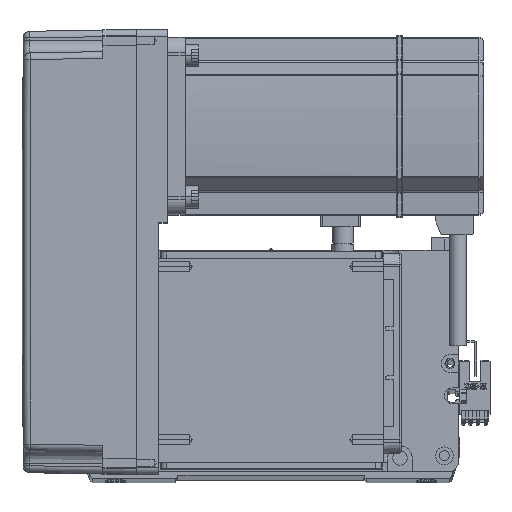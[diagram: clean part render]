
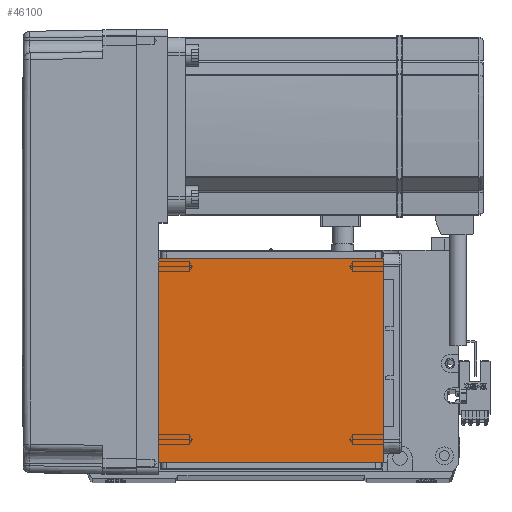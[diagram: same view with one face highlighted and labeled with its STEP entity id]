
A CAD part, top view. The second image highlights one B-rep face of the part: STEP entity #46100.
In plain terms, the highlighted planar face has unit normal (0, 0, 1).
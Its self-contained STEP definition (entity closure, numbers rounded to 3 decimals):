
#653 = EDGE_CURVE ( 'NONE', #18079, #14339, #40876, .T. ) ;
#2469 = EDGE_CURVE ( 'NONE', #18079, #31476, #30775, .T. ) ;
#4140 = EDGE_CURVE ( 'NONE', #41751, #14339, #19170, .T. ) ;
#4277 = VECTOR ( 'NONE', #45794, 1000. ) ;
#8455 = DIRECTION ( 'NONE',  ( -1., 0., 0. ) ) ;
#8769 = VECTOR ( 'NONE', #30800, 1000. ) ;
#12964 = CARTESIAN_POINT ( 'NONE',  ( 50.5, 122., 115. ) ) ;
#13898 = CARTESIAN_POINT ( 'NONE',  ( -50.5, 122., 115. ) ) ;
#14339 = VERTEX_POINT ( 'NONE', #42438 ) ;
#15598 = CARTESIAN_POINT ( 'NONE',  ( 50.5, 111.5, 115. ) ) ;
#18079 = VERTEX_POINT ( 'NONE', #20987 ) ;
#18096 = EDGE_LOOP ( 'NONE', ( #32874, #55091, #27475, #24790 ) ) ;
#19170 = LINE ( 'NONE', #13898, #4277 ) ;
#19726 = LINE ( 'NONE', #57527, #22540 ) ;
#20987 = CARTESIAN_POINT ( 'NONE',  ( 50.5, 20., 115. ) ) ;
#22087 = CARTESIAN_POINT ( 'NONE',  ( -70.004, 20., 115. ) ) ;
#22540 = VECTOR ( 'NONE', #31493, 1000. ) ;
#24790 = ORIENTED_EDGE ( 'NONE', *, *, #2469, .T. ) ;
#27475 = ORIENTED_EDGE ( 'NONE', *, *, #653, .F. ) ;
#30775 = LINE ( 'NONE', #12964, #8769 ) ;
#30800 = DIRECTION ( 'NONE',  ( 0., 1., 0. ) ) ;
#31476 = VERTEX_POINT ( 'NONE', #15598 ) ;
#31493 = DIRECTION ( 'NONE',  ( 1., 0., 0. ) ) ;
#32874 = ORIENTED_EDGE ( 'NONE', *, *, #54183, .F. ) ;
#34327 = CARTESIAN_POINT ( 'NONE',  ( -50.5, 111.5, 115. ) ) ;
#34600 = FACE_OUTER_BOUND ( 'NONE', #18096, .T. ) ;
#35671 = DIRECTION ( 'NONE',  ( 1., 0., 0. ) ) ;
#38757 = VECTOR ( 'NONE', #8455, 1000. ) ;
#39859 = CARTESIAN_POINT ( 'NONE',  ( 0., 0., 115. ) ) ;
#40876 = LINE ( 'NONE', #22087, #38757 ) ;
#41751 = VERTEX_POINT ( 'NONE', #34327 ) ;
#42438 = CARTESIAN_POINT ( 'NONE',  ( -50.5, 20., 115. ) ) ;
#45794 = DIRECTION ( 'NONE',  ( 0., -1., 0. ) ) ;
#46100 = ADVANCED_FACE ( 'NONE', ( #34600 ), #53802, .T. ) ;
#49418 = DIRECTION ( 'NONE',  ( 0., 0., 1. ) ) ;
#50344 = AXIS2_PLACEMENT_3D ( 'NONE', #39859, #49418, #35671 ) ;
#53802 = PLANE ( 'NONE',  #50344 ) ;
#54183 = EDGE_CURVE ( 'NONE', #41751, #31476, #19726, .T. ) ;
#55091 = ORIENTED_EDGE ( 'NONE', *, *, #4140, .T. ) ;
#57527 = CARTESIAN_POINT ( 'NONE',  ( -70.004, 111.5, 115. ) ) ;
